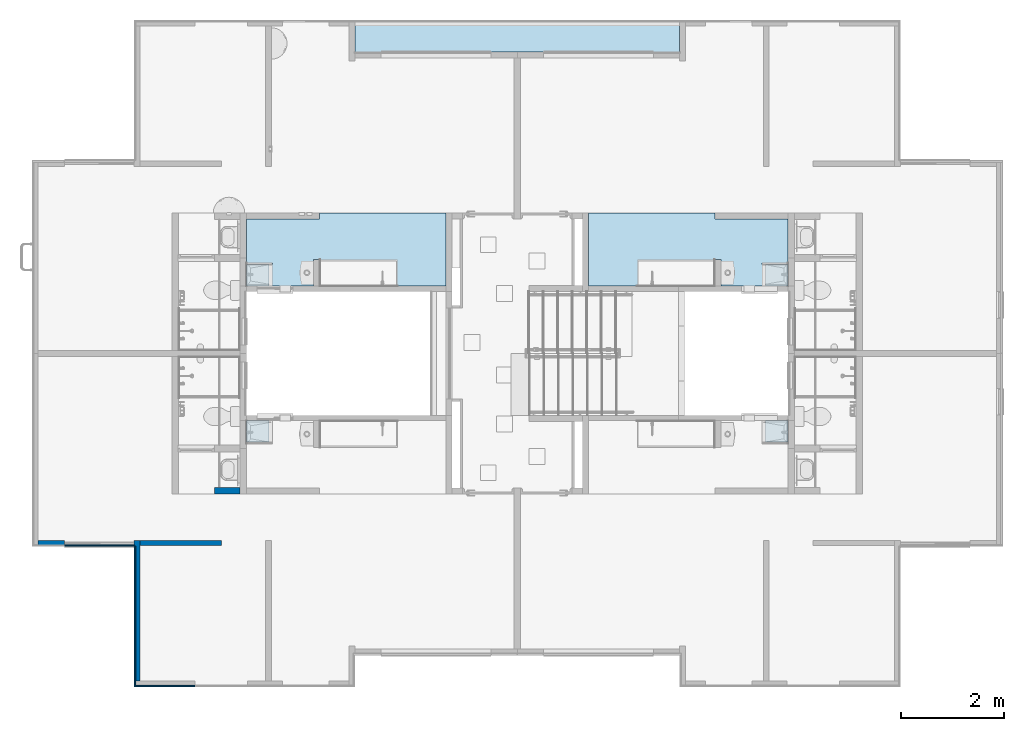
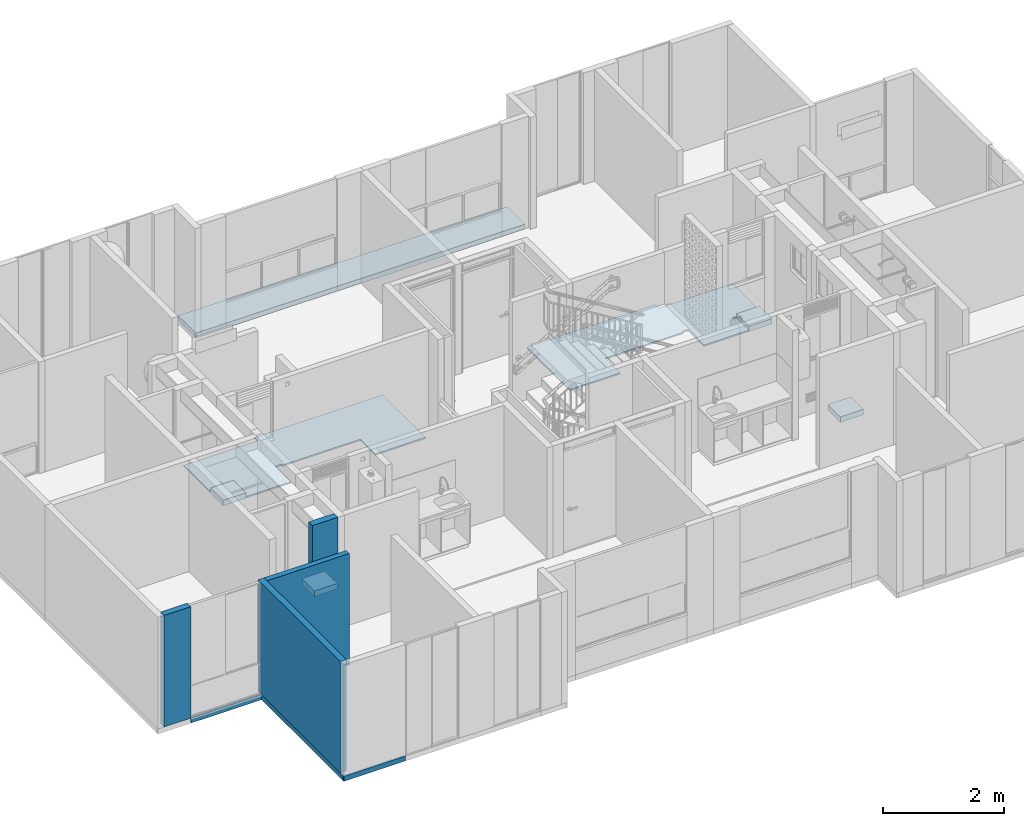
# One storey, part 3 of 51: 7 slabs, 7 walls.
"""IFC4 building model written with IfcOpenShell, lengths in metres."""

import ifcopenshell
import ifcopenshell.guid

model = None  # the IFC model being written
_history = None  # IfcOwnerHistory: only IFC2X3 demands one
_inside = {}  # id of a spatial element -> (the spatial element, [elements in it])
_under = {}  # id of a project, library or spatial element -> (it, [spatial elements below it])
_declared = {}  # id of a project -> (the project, [libraries it declares])
_typed = {}  # id of a type object -> (the type object, [elements of that type])
_made_of = {}  # id of a material, layer set ... -> (it, [elements and type objects made of it])


def new_model(schema):
    """Start an empty IFC model of exactly this schema.

    Asked for "IFC4X3", IfcOpenShell would pick the latest addendum, in which some entities
    have other attributes; the version numbers below select the first issue.
    IFC2X3 requires an IfcOwnerHistory on every rooted entity: one is made here for all.
    """
    global model, _history
    if schema == "IFC4X3":
        model = ifcopenshell.file(schema_version=(4, 3, 0, 0))
    else:
        model = ifcopenshell.file(schema=schema)
    _inside.clear()
    _under.clear()
    _declared.clear()
    _typed.clear()
    _made_of.clear()
    _history = None
    if model.schema == "IFC2X3":
        org = make("IfcOrganization", Name="unknown")
        user = make(
            "IfcPersonAndOrganization",
            ThePerson=make("IfcPerson", FamilyName="unknown"),
            TheOrganization=org,
        )
        app = make(
            "IfcApplication",
            ApplicationDeveloper=org,
            Version="unknown",
            ApplicationFullName="unknown",
            ApplicationIdentifier="unknown",
        )
        _history = make(
            "IfcOwnerHistory",
            OwningUser=user,
            OwningApplication=app,
            ChangeAction="ADDED",
            CreationDate=0,
        )
    return model


def make(cls, **values):
    """One entity of the class cls with the attributes given. An attribute that is None is left unset."""
    return model.create_entity(
        cls, **{name: value for name, value in values.items() if value is not None}
    )


def entity(cls, *values):
    """Any entity or typed value of the class cls, its attributes in the order of the schema. None: left unset."""
    e = model.create_entity(cls)
    for i, value in enumerate(values):
        if value is not None:
            e[i] = value
    return e


def rooted(cls, **values):
    """An entity with a GlobalId (a new one), such as an element, a storey or a relation."""
    return make(cls, GlobalId=ifcopenshell.guid.new(), OwnerHistory=_history, **values)


def si_unit(unit_type, name, prefix=None):
    """IfcSIUnit, for example si_unit("LENGTHUNIT", "METRE", prefix="MILLI")."""
    return make("IfcSIUnit", UnitType=unit_type, Prefix=prefix, Name=name)


def converted_unit(unit_type, name, factor, base, dimensions=None, offset=None):
    """IfcConversionBasedUnit, such as the inch: factor (a typed value) times the base unit."""
    return make(
        "IfcConversionBasedUnit"
        if offset is None
        else "IfcConversionBasedUnitWithOffset",
        ConversionOffset=offset,
        Dimensions=None
        if dimensions is None
        else entity("IfcDimensionalExponents", *dimensions),
        UnitType=unit_type,
        Name=name,
        ConversionFactor=make(
            "IfcMeasureWithUnit", ValueComponent=factor, UnitComponent=base
        ),
    )


def derived_unit(unit_type, elements):
    """IfcDerivedUnit: a product of units, each with its exponent."""
    return make(
        "IfcDerivedUnit",
        Elements=[
            make("IfcDerivedUnitElement", Unit=unit, Exponent=power)
            for unit, power in elements
        ],
        UnitType=unit_type,
    )


def assignment(units):
    """IfcUnitAssignment: the units of a project."""
    return None if units is None else make("IfcUnitAssignment", Units=units)


def point(xyz):
    """IfcCartesianPoint."""
    return None if xyz is None else make("IfcCartesianPoint", Coordinates=xyz)


def direction(xyz):
    """IfcDirection."""
    return None if xyz is None else make("IfcDirection", DirectionRatios=xyz)


def frame(location, z_axis=None, x_axis=None):
    """IfcAxis2Placement3D, a coordinate frame: its origin and axes. An axis left out is left unset."""
    return make(
        "IfcAxis2Placement3D",
        Location=point(location),
        Axis=direction(z_axis),
        RefDirection=direction(x_axis),
    )


def origin():
    """The frame at (0, 0, 0) with its axes left unset."""
    return frame((0.0, 0.0, 0.0))


def place(relative_to, where):
    """IfcLocalPlacement: puts the frame where relative to a parent placement (None: the world)."""
    return make(
        "IfcLocalPlacement", PlacementRelTo=relative_to, RelativePlacement=where
    )


def context(
    kind, dimensions, precision=None, world=None, true_north=None, identifier=None
):
    """IfcGeometricRepresentationContext, for example the 3D "Model" context."""
    return make(
        "IfcGeometricRepresentationContext",
        ContextIdentifier=identifier,
        ContextType=kind,
        CoordinateSpaceDimension=dimensions,
        Precision=precision,
        WorldCoordinateSystem=world,
        TrueNorth=true_north,
    )


def subcontext(parent, identifier, kind, view, scale=None):
    """IfcGeometricRepresentationSubContext, for example "Body" below "Model"."""
    return make(
        "IfcGeometricRepresentationSubContext",
        ContextIdentifier=identifier,
        ContextType=kind,
        ParentContext=parent,
        TargetScale=scale,
        TargetView=view,
    )


def project(units=None, contexts=None):
    """IfcProject with its units and contexts."""
    return rooted(
        "IfcProject",
        Name="project",
        RepresentationContexts=contexts,
        UnitsInContext=assignment(units),
    )


def spatial(cls, under=None, at=None, **own):
    """A site, building, storey or space (cls), placed at a placement, below another one or the project."""
    s = rooted(cls, ObjectPlacement=at, **own)
    if under is not None:
        _under.setdefault(under.id(), (under, []))[1].append(s)
    return s


def point_list(points):
    """IfcCartesianPointList2D or 3D."""
    cls = (
        "IfcCartesianPointList2D" if len(points[0]) == 2 else "IfcCartesianPointList3D"
    )
    return make(cls, CoordList=points)


def indexed_curve(points, segments=None, self_intersect=None):
    """IfcIndexedPolyCurve: lines and arcs through numbered points (the first is 1)."""
    return make(
        "IfcIndexedPolyCurve",
        Points=point_list(points),
        Segments=segments,
        SelfIntersect=self_intersect,
    )


def outline(outer, holes=None, kind="AREA"):
    """IfcArbitraryClosedProfileDef: a profile drawn as a closed curve; with holes, ...WithVoids."""
    if holes is None:
        return make("IfcArbitraryClosedProfileDef", ProfileType=kind, OuterCurve=outer)
    return make(
        "IfcArbitraryProfileDefWithVoids",
        ProfileType=kind,
        OuterCurve=outer,
        InnerCurves=holes,
    )


def extrude(swept, where, along, depth):
    """IfcExtrudedAreaSolid: the profile swept, set in the frame where, extruded along a direction by depth."""
    return make(
        "IfcExtrudedAreaSolid",
        SweptArea=swept,
        Position=where,
        ExtrudedDirection=direction(along),
        Depth=depth,
    )


def shape(context_of_items, identifier, shape_type, items):
    """IfcShapeRepresentation: the items that make up one representation, for example the "Body"."""
    return make(
        "IfcShapeRepresentation",
        ContextOfItems=context_of_items,
        RepresentationIdentifier=identifier,
        RepresentationType=shape_type,
        Items=items,
    )


def material(Name=None, Category=None):
    """IfcMaterial."""
    return make("IfcMaterial", Name=Name, Category=Category)


def constituent(of_material, Name=None, Category=None, fraction=None):
    """IfcMaterialConstituent: one of the materials an element consists of."""
    return make(
        "IfcMaterialConstituent",
        Name=Name,
        Material=of_material,
        Fraction=fraction,
        Category=Category,
    )


def constituent_set(constituents=None, Name=None):
    """IfcMaterialConstituentSet."""
    return make(
        "IfcMaterialConstituentSet", Name=Name, MaterialConstituents=constituents
    )


def made_of(thing, what):
    """Note that an element or type object is made of a material, layer set ...; save() writes the relation."""
    if what is not None:
        _made_of.setdefault(what.id(), (what, []))[1].append(thing)
    return thing


def type_object(cls, material=None, **own):
    """A type object (cls), such as IfcWallType, which elements share."""
    return made_of(rooted(cls, **own), material)


def element(
    cls,
    number,
    at=None,
    inside=None,
    cuts=None,
    type_object=None,
    material=None,
    context=None,
    identifier="Body",
    shape_type=None,
    held_by="IfcProductDefinitionShape",
    body=None,
    shapes=None,
    **own,
):
    """One element of the class cls, such as IfcWall. Its Tag is "e" and its number.

    at: its placement. inside: the storey or other place that contains it. cuts: it is an
    opening in that element (IfcRelVoidsElement). A single representation is given by context,
    identifier, shape_type and body (its items); several are given by shapes. held_by: the class
    of the entity that holds the representations. save() writes the other relations.
    """
    e = rooted(cls, Tag="e%d" % number, ObjectPlacement=at, **own)
    if body is not None:
        shapes = [shape(context, identifier, shape_type, body)]
    if shapes is not None:
        e.Representation = make(held_by, Representations=shapes)
    if inside is not None:
        _inside.setdefault(inside.id(), (inside, []))[1].append(e)
    if cuts is not None:
        rooted(
            "IfcRelVoidsElement", RelatingBuildingElement=cuts, RelatedOpeningElement=e
        )
    if type_object is not None:
        _typed.setdefault(type_object.id(), (type_object, []))[1].append(e)
    return made_of(e, material)


def aggregate(whole, parts):
    """IfcRelAggregates: a whole, such as a stair, and the parts it consists of."""
    return rooted("IfcRelAggregates", RelatingObject=whole, RelatedObjects=parts)


def save(model, path):
    """Write the relations noted so far, then the file.

    IfcRelAggregates (storeys below a building ...), IfcRelContainedInSpatialStructure (elements
    in a storey), IfcRelDefinesByType, IfcRelAssociatesMaterial and IfcRelDeclares: one each for
    every whole, place, type object, material and project.
    """
    for whole, parts in _under.values():
        aggregate(whole, parts)
    for where, things in _inside.values():
        rooted(
            "IfcRelContainedInSpatialStructure",
            RelatedElements=things,
            RelatingStructure=where,
        )
    for kind, things in _typed.values():
        rooted("IfcRelDefinesByType", RelatedObjects=things, RelatingType=kind)
    for what, things in _made_of.values():
        rooted("IfcRelAssociatesMaterial", RelatedObjects=things, RelatingMaterial=what)
    for by, libraries in _declared.values():
        rooted("IfcRelDeclares", RelatingContext=by, RelatedDefinitions=libraries)
    model.write(path)


model = new_model("IFC4")

# Units and contexts
model_context = context("Model", 3, precision=1e-05, world=origin(), true_north=direction((6.123031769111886e-17, 1.0)))
body_context = subcontext(model_context, "Body", "Model", "MODEL_VIEW")
ifc_project = project(units=[si_unit("LENGTHUNIT", "METRE"), si_unit("AREAUNIT", "SQUARE_METRE"), si_unit("VOLUMEUNIT", "CUBIC_METRE"), converted_unit("PLANEANGLEUNIT", "DEGREE", entity("IfcRatioMeasure", 0.017453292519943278), si_unit("PLANEANGLEUNIT", "RADIAN"), dimensions=[0, 0, 0, 0, 0, 0, 0]), si_unit("MASSUNIT", "GRAM", prefix="KILO"), derived_unit("MASSDENSITYUNIT", [(si_unit("MASSUNIT", "GRAM", prefix="KILO"), 1), (si_unit("LENGTHUNIT", "METRE"), -3)]), derived_unit("IONCONCENTRATIONUNIT", [(si_unit("MASSUNIT", "GRAM", prefix="KILO"), 1), (si_unit("LENGTHUNIT", "METRE"), -3)]), derived_unit("MOMENTOFINERTIAUNIT", [(si_unit("LENGTHUNIT", "METRE"), 4)]), si_unit("TIMEUNIT", "SECOND"), si_unit("FREQUENCYUNIT", "HERTZ"), si_unit("THERMODYNAMICTEMPERATUREUNIT", "DEGREE_CELSIUS"), derived_unit("THERMALTRANSMITTANCEUNIT", [(si_unit("MASSUNIT", "GRAM", prefix="KILO"), 1), (si_unit("THERMODYNAMICTEMPERATUREUNIT", "KELVIN"), -1), (si_unit("TIMEUNIT", "SECOND"), -3)]), derived_unit("THERMALCONDUCTANCEUNIT", [(si_unit("MASSUNIT", "GRAM", prefix="KILO"), 1), (si_unit("THERMODYNAMICTEMPERATUREUNIT", "KELVIN"), -1), (si_unit("TIMEUNIT", "SECOND"), -3), (si_unit("LENGTHUNIT", "METRE"), 1)]), derived_unit("VOLUMETRICFLOWRATEUNIT", [(si_unit("LENGTHUNIT", "METRE"), 3), (si_unit("TIMEUNIT", "SECOND"), -1)]), derived_unit("MASSFLOWRATEUNIT", [(si_unit("MASSUNIT", "GRAM", prefix="KILO"), 1), (si_unit("TIMEUNIT", "SECOND"), -1)]), derived_unit("ROTATIONALFREQUENCYUNIT", [(si_unit("TIMEUNIT", "SECOND"), -1)]), si_unit("ELECTRICCURRENTUNIT", "AMPERE"), si_unit("ELECTRICVOLTAGEUNIT", "VOLT"), si_unit("POWERUNIT", "WATT"), si_unit("FORCEUNIT", "NEWTON", prefix="KILO"), si_unit("ILLUMINANCEUNIT", "LUX"), si_unit("LUMINOUSFLUXUNIT", "LUMEN"), si_unit("LUMINOUSINTENSITYUNIT", "CANDELA"), derived_unit("USERDEFINED", [(si_unit("MASSUNIT", "GRAM", prefix="KILO"), -1), (si_unit("LENGTHUNIT", "METRE"), -2), (si_unit("TIMEUNIT", "SECOND"), 3), (si_unit("LUMINOUSFLUXUNIT", "LUMEN"), 1)]), derived_unit("USERDEFINED", [(si_unit("MASSUNIT", "GRAM", prefix="KILO"), 1), (si_unit("TIMEUNIT", "SECOND"), -3), (si_unit("LENGTHUNIT", "METRE"), 3), (si_unit("ELECTRICCURRENTUNIT", "AMPERE"), -2)]), derived_unit("SOUNDPOWERUNIT", [(si_unit("MASSUNIT", "GRAM", prefix="KILO"), 1), (si_unit("TIMEUNIT", "SECOND"), -3), (si_unit("LENGTHUNIT", "METRE"), 2)]), derived_unit("SOUNDPRESSUREUNIT", [(si_unit("MASSUNIT", "GRAM", prefix="KILO"), 1), (si_unit("LENGTHUNIT", "METRE"), -1), (si_unit("TIMEUNIT", "SECOND"), -2)]), derived_unit("LINEARVELOCITYUNIT", [(si_unit("LENGTHUNIT", "METRE"), 1), (si_unit("TIMEUNIT", "SECOND"), -1)]), si_unit("PRESSUREUNIT", "PASCAL"), derived_unit("USERDEFINED", [(si_unit("MASSUNIT", "GRAM", prefix="KILO"), 1), (si_unit("LENGTHUNIT", "METRE"), -2), (si_unit("TIMEUNIT", "SECOND"), -2)]), derived_unit("LINEARFORCEUNIT", [(si_unit("MASSUNIT", "GRAM", prefix="KILO"), 1), (si_unit("TIMEUNIT", "SECOND"), -2)]), derived_unit("PLANARFORCEUNIT", [(si_unit("MASSUNIT", "GRAM", prefix="KILO"), 1), (si_unit("LENGTHUNIT", "METRE"), -1), (si_unit("TIMEUNIT", "SECOND"), -2)]), derived_unit("SPECIFICHEATCAPACITYUNIT", [(si_unit("THERMODYNAMICTEMPERATUREUNIT", "KELVIN"), -1), (si_unit("LENGTHUNIT", "METRE"), 2), (si_unit("TIMEUNIT", "SECOND"), -2)]), derived_unit("HEATINGVALUEUNIT", [(si_unit("LENGTHUNIT", "METRE"), 2), (si_unit("TIMEUNIT", "SECOND"), -2)]), derived_unit("VAPORPERMEABILITYUNIT", [(si_unit("LENGTHUNIT", "METRE"), -1), (si_unit("TIMEUNIT", "SECOND"), 1)]), derived_unit("DYNAMICVISCOSITYUNIT", [(si_unit("MASSUNIT", "GRAM", prefix="KILO"), 1), (si_unit("TIMEUNIT", "SECOND"), -1), (si_unit("LENGTHUNIT", "METRE"), -1)]), derived_unit("THERMALEXPANSIONCOEFFICIENTUNIT", [(si_unit("THERMODYNAMICTEMPERATUREUNIT", "KELVIN"), -1)]), derived_unit("MODULUSOFELASTICITYUNIT", [(si_unit("MASSUNIT", "GRAM", prefix="KILO"), 1), (si_unit("LENGTHUNIT", "METRE"), -1), (si_unit("TIMEUNIT", "SECOND"), -2)]), derived_unit("ISOTHERMALMOISTURECAPACITYUNIT", [(si_unit("LENGTHUNIT", "METRE"), 3), (si_unit("MASSUNIT", "GRAM", prefix="KILO"), -1)]), derived_unit("MOISTUREDIFFUSIVITYUNIT", [(si_unit("TIMEUNIT", "SECOND"), -1), (si_unit("LENGTHUNIT", "METRE"), 2)])], contexts=[model_context])

# Site, building, storey
site_placement = place(None, origin())
site = spatial("IfcSite", under=ifc_project, at=site_placement, Name="Default", CompositionType="ELEMENT")
building_placement = place(site_placement, origin())
building = spatial("IfcBuilding", under=site, at=building_placement, CompositionType="ELEMENT")
storey_placement = place(building_placement, frame((0.0, 0.0, 2.350000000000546)))
storey = spatial("IfcBuildingStorey", under=building, at=storey_placement, Name="Nivel 2", CompositionType="ELEMENT", Elevation=2.350000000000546)

# Slabs
ifc_material_1 = material(Name="Ceramica 0.45m x 0.45m gris", Category="Materials")
ifc_constituent_1 = constituent(ifc_material_1, Name="Ceramica 0.45m x 0.45m gris", Category="Materials")
ifc_material_2 = material(Name="Mortero de pega", Category="Materials")
ifc_constituent_2 = constituent(ifc_material_2, Name="Mortero de pega", Category="Materials")
ifc_constituent_set_1 = constituent_set(constituents=[ifc_constituent_1, ifc_constituent_2], Name="Floor:C2030.20 - 0.45 x 0.45 - Enchape cerámico - Mortero de Pega + Cerámica gris")
slab_type_1 = type_object("IfcSlabType", Name="Floor:C2030.20 - 0.45 x 0.45 - Enchape cerámico - Mortero de Pega + Cerámica gris", PredefinedType="FLOOR", material=ifc_constituent_set_1)
slab_1_placement = place(storey_placement, origin())
element("IfcSlab", 1, at=slab_1_placement, inside=storey, type_object=slab_type_1, material=ifc_constituent_set_1, Name="Floor:C2030.20 - 0.45 x 0.45 - Enchape cerámico - Mortero de Pega + Cerámica gris", ObjectType="Floor:C2030.20 - 0.45 x 0.45 - Enchape cerámico - Mortero de Pega + Cerámica gris", PredefinedType="FLOOR", context=body_context, shape_type="SweptSolid", body=[
    extrude(outline(indexed_curve([(0.06375012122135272, -0.7259999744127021), (1.478750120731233, -0.7259999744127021), (1.4787501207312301, 0.1239999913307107), (0.9787496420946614, 0.12399999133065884), (0.978749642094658, 0.15799999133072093), (1.0387496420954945, 0.1579999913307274), (1.0387496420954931, 0.5734999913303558), (0.1787501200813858, 0.5734999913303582), (0.17875012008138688, 0.053999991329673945), (0.06375012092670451, 0.05399999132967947), (0.06375012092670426, 0.08399999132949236), (-1.4212498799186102, 0.0839999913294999), (-1.4212498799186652, 0.5734999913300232), (-2.381249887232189, 0.5734999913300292), (-2.381249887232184, -0.8409999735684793), (0.06375012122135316, -0.8409999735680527), (0.06375012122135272, -0.7259999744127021)], self_intersect=False)), frame((5.566250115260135, -4.551000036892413, 0.019999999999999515), z_axis=(0.0, 0.0, 1.0), x_axis=(-1.0, 0.0, 0.0)), (0.0, 0.0, 1.0), 0.009999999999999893),
    extrude(outline(indexed_curve([(-0.8409999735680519, 0.06375012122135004), (-0.84099997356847, -2.3812498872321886), (0.5734999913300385, -2.381249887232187), (0.5734999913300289, -1.421249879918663), (0.08399999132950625, -1.42124987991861), (0.08399999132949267, 0.06375012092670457), (0.053999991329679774, 0.06375012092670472), (0.05399999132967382, 0.17875012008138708), (0.5734999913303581, 0.17875012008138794), (0.5734999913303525, 1.0387496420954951), (0.15799999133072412, 1.038749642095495), (0.15799999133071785, 0.9787496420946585), (0.12399999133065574, 0.9787496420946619), (0.12399999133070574, 1.478750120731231), (-0.7259999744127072, 1.4787501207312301), (-0.7259999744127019, 0.06375012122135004), (-0.8409999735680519, 0.06375012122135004)], self_intersect=False)), frame((5.566250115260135, -4.551000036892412, 0.0), z_axis=(0.0, 0.0, -1.0), x_axis=(0.0, -1.0, 0.0)), (0.0, 0.0, -1.0), 0.020000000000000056),
])
slab_2_placement = place(storey_placement, origin())
element("IfcSlab", 2, at=slab_2_placement, inside=storey, type_object=slab_type_1, material=ifc_constituent_set_1, Name="Floor:C2030.20 - 0.45 x 0.45 - Enchape cerámico - Mortero de Pega + Cerámica gris", ObjectType="Floor:C2030.20 - 0.45 x 0.45 - Enchape cerámico - Mortero de Pega + Cerámica gris", PredefinedType="FLOOR", context=body_context, shape_type="SweptSolid", body=[
    extrude(outline(indexed_curve([(-0.06375012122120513, -0.8409999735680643), (2.381249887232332, -0.8409999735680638), (2.38124988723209, 0.5734999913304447), (1.4212498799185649, 0.573499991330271), (1.4212498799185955, 0.08399999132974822), (-0.06375012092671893, 0.08399999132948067), (-0.06375012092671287, 0.0539999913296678), (-0.17875012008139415, 0.05399999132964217), (-0.17875012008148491, 0.5734999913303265), (-1.038749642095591, 0.5734999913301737), (-1.0387496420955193, 0.15799999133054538), (-0.9787496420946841, 0.15799999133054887), (-0.978749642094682, 0.1239999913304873), (-1.478750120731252, 0.12399999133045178), (-1.478750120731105, -0.7259999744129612), (-0.0637501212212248, -0.7259999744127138), (-0.06375012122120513, -0.8409999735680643)], self_intersect=False)), frame((13.078749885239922, -4.551000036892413, 0.019999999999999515), z_axis=(0.0, 0.0, 1.0), x_axis=(-1.0, 0.0, 0.0)), (0.0, 0.0, 1.0), 0.009999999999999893),
    extrude(outline(indexed_curve([(-0.06375012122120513, -0.8409999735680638), (2.381249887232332, -0.8409999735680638), (2.38124988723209, 0.5734999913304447), (1.4212498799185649, 0.573499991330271), (1.4212498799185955, 0.08399999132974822), (-0.06375012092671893, 0.08399999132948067), (-0.06375012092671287, 0.0539999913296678), (-0.17875012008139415, 0.05399999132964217), (-0.17875012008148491, 0.5734999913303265), (-1.038749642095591, 0.5734999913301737), (-1.0387496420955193, 0.15799999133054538), (-0.9787496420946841, 0.1579999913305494), (-0.978749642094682, 0.1239999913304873), (-1.478750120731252, 0.12399999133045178), (-1.478750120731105, -0.7259999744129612), (-0.0637501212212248, -0.7259999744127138), (-0.06375012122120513, -0.8409999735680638)], self_intersect=False)), frame((13.078749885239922, -4.551000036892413, 0.0), z_axis=(0.0, 0.0, 1.0), x_axis=(-1.0, 0.0, 0.0)), (0.0, 0.0, 1.0), 0.020000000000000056),
])
ifc_material_3 = material(Name="Concreto (Aire)", Category="Materials")
slab_type_2 = type_object("IfcSlabType", Name="Floor:B1020 - 0.10m - Placa de cubierta - Concreto", PredefinedType="FLOOR", material=ifc_material_3)
slab_3_placement = place(storey_placement, origin())
element("IfcSlab", 3, at=slab_3_placement, inside=storey, type_object=slab_type_2, material=ifc_material_3, Name="Floor:B1020 - 0.10m - Placa de cubierta - Concreto", ObjectType="Floor:B1020 - 0.10m - Placa de cubierta - Concreto", PredefinedType="FLOOR", context=body_context, shape_type="SweptSolid", body=[
    extrude(outline(indexed_curve([(-0.2925000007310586, -3.1400000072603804), (0.29250000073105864, -3.1400000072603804), (0.29250000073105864, 3.1400000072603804), (-0.2925000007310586, 3.1400000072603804), (-0.2925000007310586, -3.1400000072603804)], self_intersect=False)), frame((9.322500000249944, -0.3025000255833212, 0.0), z_axis=(0.0, 0.0, -1.0), x_axis=(0.0, 1.0, 0.0)), (0.0, 0.0, 1.0), 0.1),
])
ifc_constituent_3 = constituent(ifc_material_1, Name="Ceramica 0.45m x 0.45m gris", Category="Materials")
ifc_constituent_4 = constituent(ifc_material_3, Name="Concreto (Aire)", Category="Materials")
ifc_constituent_set_2 = constituent_set(constituents=[ifc_constituent_3, ifc_constituent_4], Name="Floor:B1010 - 0.10m - Poyo - Concreto+ cerámica")
slab_type_3 = type_object("IfcSlabType", Name="Floor:B1010 - 0.10m - Poyo - Concreto+ cerámica", PredefinedType="FLOOR", material=ifc_constituent_set_2)
slab_4_placement = place(storey_placement, origin())
element("IfcSlab", 4, at=slab_4_placement, inside=storey, type_object=slab_type_3, material=ifc_constituent_set_2, Name="Floor:B1010 - 0.10m - Poyo - Concreto+ cerámica", ObjectType="Floor:B1010 - 0.10m - Poyo - Concreto+ cerámica", PredefinedType="FLOOR", context=body_context, shape_type="SweptSolid", body=[
    extrude(outline(indexed_curve([(-0.20774999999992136, -0.220000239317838), (0.20774999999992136, -0.220000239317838), (0.20774999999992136, 0.220000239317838), (-0.20774999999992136, 0.22000023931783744), (-0.20774999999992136, -0.220000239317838)], self_intersect=False)), frame((4.307500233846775, -4.916750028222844, 0.10000000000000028), z_axis=(0.0, 0.0, 1.0), x_axis=(0.0, -1.0, 0.0)), (0.0, 0.0, 1.0), 0.009999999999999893),
    extrude(outline(indexed_curve([(-0.220000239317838, -0.20774999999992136), (0.220000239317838, -0.20774999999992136), (0.220000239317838, 0.20774999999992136), (-0.220000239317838, 0.20774999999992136), (-0.220000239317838, -0.20774999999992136)], self_intersect=False)), frame((4.307500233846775, -4.916750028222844, 0.0), z_axis=(0.0, 0.0, 1.0), x_axis=(-1.0, 0.0, 0.0)), (0.0, 0.0, 1.0), 0.1),
])
slab_5_placement = place(storey_placement, origin())
element("IfcSlab", 5, at=slab_5_placement, inside=storey, type_object=slab_type_3, material=ifc_constituent_set_2, Name="Floor:B1010 - 0.10m - Poyo - Concreto+ cerámica", ObjectType="Floor:B1010 - 0.10m - Poyo - Concreto+ cerámica", PredefinedType="FLOOR", context=body_context, shape_type="SweptSolid", body=[
    extrude(outline(indexed_curve([(-0.2077499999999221, -0.22000023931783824), (0.20774999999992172, -0.22000023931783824), (0.2077499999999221, 0.22000023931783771), (-0.20774999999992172, 0.22000023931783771), (-0.2077499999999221, -0.22000023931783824)], self_intersect=False)), frame((4.307500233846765, -7.933250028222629, 0.10000000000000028), z_axis=(0.0, 0.0, 1.0), x_axis=(0.0, 1.0, 0.0)), (0.0, 0.0, 1.0), 0.009999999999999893),
    extrude(outline(indexed_curve([(-0.2077499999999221, -0.22000023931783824), (0.20774999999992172, -0.22000023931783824), (0.2077499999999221, 0.22000023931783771), (-0.20774999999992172, 0.22000023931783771), (-0.2077499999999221, -0.22000023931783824)], self_intersect=False)), frame((4.307500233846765, -7.933250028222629, 0.0), z_axis=(0.0, 0.0, 1.0), x_axis=(0.0, 1.0, 0.0)), (0.0, 0.0, 1.0), 0.1),
])
slab_6_placement = place(storey_placement, origin())
element("IfcSlab", 6, at=slab_6_placement, inside=storey, type_object=slab_type_3, material=ifc_constituent_set_2, Name="Floor:B1010 - 0.10m - Poyo - Concreto+ cerámica", ObjectType="Floor:B1010 - 0.10m - Poyo - Concreto+ cerámica", PredefinedType="FLOOR", context=body_context, shape_type="SweptSolid", body=[
    extrude(outline(indexed_curve([(-0.20774999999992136, -0.22000023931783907), (0.20774999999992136, -0.22000023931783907), (0.20774999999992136, 0.2200002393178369), (-0.20774999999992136, 0.2200002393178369), (-0.20774999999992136, -0.22000023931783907)], self_intersect=False)), frame((14.337499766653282, -4.916750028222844, 0.10000000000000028), z_axis=(0.0, 0.0, 1.0), x_axis=(0.0, -1.0, 0.0)), (0.0, 0.0, 1.0), 0.009999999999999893),
    extrude(outline(indexed_curve([(-0.20774999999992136, -0.22000023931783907), (0.20774999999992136, -0.22000023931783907), (0.20774999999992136, 0.2200002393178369), (-0.20774999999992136, 0.2200002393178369), (-0.20774999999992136, -0.22000023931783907)], self_intersect=False)), frame((14.337499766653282, -4.916750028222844, 0.0), z_axis=(0.0, 0.0, 1.0), x_axis=(0.0, -1.0, 0.0)), (0.0, 0.0, 1.0), 0.1),
])
slab_7_placement = place(storey_placement, origin())
element("IfcSlab", 7, at=slab_7_placement, inside=storey, type_object=slab_type_3, material=ifc_constituent_set_2, Name="Floor:B1010 - 0.10m - Poyo - Concreto+ cerámica", ObjectType="Floor:B1010 - 0.10m - Poyo - Concreto+ cerámica", PredefinedType="FLOOR", context=body_context, shape_type="SweptSolid", body=[
    extrude(outline(indexed_curve([(-0.2077499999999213, -0.22000023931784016), (0.20774999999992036, -0.22000023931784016), (0.2077499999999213, 0.22000023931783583), (-0.20774999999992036, 0.22000023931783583), (-0.2077499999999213, -0.22000023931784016)], self_intersect=False)), frame((14.337499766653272, -7.933250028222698, 0.10000000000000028), z_axis=(0.0, 0.0, 1.0), x_axis=(0.0, 1.0, 0.0)), (0.0, 0.0, 1.0), 0.009999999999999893),
    extrude(outline(indexed_curve([(-0.22000023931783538, -0.20774999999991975), (0.2200002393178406, -0.20774999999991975), (0.2200002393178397, 0.2077499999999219), (-0.22000023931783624, 0.2077499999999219), (-0.22000023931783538, -0.20774999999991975)], self_intersect=False)), frame((14.337499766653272, -7.9332500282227, 0.0)), (0.0, 0.0, 1.0), 0.1),
])

# Walls
ifc_material_4 = material(Name="Ladrillo claro (Aire)", Category="Materials")
wall_type_1 = type_object("IfcWallType", Name="Basic Wall:B2010 - 0.115m - Muro exterior en mampostería - Ladrillo", PredefinedType="STANDARD")
wall_1_placement = place(storey_placement, frame((1.9749999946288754, -10.04000002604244, 0.0), z_axis=(0.0, 0.0, 1.0), x_axis=(0.0, -1.0, 0.0)))
element("IfcWall", 8, at=wall_1_placement, inside=storey, type_object=wall_type_1, material=ifc_material_4, Name="Basic Wall:B2010 - 0.115m - Muro exterior en mampostería - Ladrillo", ObjectType="Basic Wall:B2010 - 0.115m - Muro exterior en mampostería - Ladrillo", PredefinedType="NOTDEFINED", context=body_context, shape_type="SweptSolid", body=[
    extrude(outline(indexed_curve([(2.7150000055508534, 0.057499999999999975), (2.799198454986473e-16, 0.057499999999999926), (-2.799198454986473e-16, -0.057499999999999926), (2.715000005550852, -0.05749999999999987), (2.7150000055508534, 0.057499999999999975)], self_intersect=False)), origin(), (0.0, 0.0, 1.0), 2.2500000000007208),
])
ifc_material_5 = material(Name="LADRILLO CLARO", Category="Materials")
wall_type_2 = type_object("IfcWallType", Name="Basic Wall:B2010 - 0.115m - ME mampostería no estructural - Ladrillo", PredefinedType="STANDARD")
wall_2_placement = place(storey_placement, frame((0.057499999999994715, -10.097500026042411, 0.0)))
element("IfcWall", 9, at=wall_2_placement, inside=storey, type_object=wall_type_2, material=ifc_material_5, Name="Basic Wall:B2010 - 0.115m - ME mampostería no estructural - Ladrillo", ObjectType="Basic Wall:B2010 - 0.115m - ME mampostería no estructural - Ladrillo", PredefinedType="NOTDEFINED", context=body_context, shape_type="SweptSolid", body=[
    extrude(outline(indexed_curve([(0.5099999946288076, 0.057499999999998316), (-1.1590771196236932e-18, 0.057499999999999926), (1.1590771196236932e-18, -0.057499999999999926), (0.5099999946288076, -0.05750000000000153), (0.5099999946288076, 0.057499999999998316)], self_intersect=False)), origin(), (0.0, 0.0, 1.0), 2.2500000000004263),
])
wall_type_3 = type_object("IfcWallType", Name="Basic Wall:B2010 - 0.10m - Muro interior en concreto", PredefinedType="STANDARD")
wall_3_placement = place(storey_placement, frame((2.032499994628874, -10.090000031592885, 0.0)))
element("IfcWall", 10, at=wall_3_placement, inside=storey, type_object=wall_type_3, material=ifc_material_3, Name="Basic Wall:B2010 - 0.10m - Muro interior en concreto", ObjectType="Basic Wall:B2010 - 0.10m - Muro interior en concreto", PredefinedType="NOTDEFINED", context=body_context, shape_type="SweptSolid", body=[
    extrude(outline(indexed_curve([(1.5699999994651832, 0.050000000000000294), (-5.230813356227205e-17, 0.04999999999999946), (5.230813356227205e-17, -0.04999999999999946), (1.5699999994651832, -0.049999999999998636), (1.5699999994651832, 0.050000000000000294)], self_intersect=False)), origin(), (0.0, 0.0, 1.0), 2.2499999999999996),
])
ifc_material_6 = material(Name="Pañete", Category="Materials")
ifc_constituent_5 = constituent(ifc_material_6, Name="Pañete", Category="Materials")
ifc_constituent_6 = constituent(ifc_material_4, Name="Ladrillo claro (Aire)", Category="Materials")
ifc_constituent_set_3 = constituent_set(constituents=[ifc_constituent_5, ifc_constituent_6], Name="Basic Wall:B2010 - 0.115m - Muro interior en mampostería - Ladrillo + Pañete")
wall_type_4 = type_object("IfcWallType", Name="Basic Wall:B2010 - 0.115m - Muro interior en mampostería - Ladrillo + Pañete", PredefinedType="STANDARD", material=ifc_constituent_set_3)
wall_4_placement = place(storey_placement, frame((3.4724999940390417, -9.077499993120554, 0.0)))
element("IfcWall", 11, at=wall_4_placement, inside=storey, type_object=wall_type_4, material=ifc_constituent_set_3, Name="Basic Wall:B2010 - 0.115m - Muro interior en mampostería - Ladrillo + Pañete", ObjectType="Basic Wall:B2010 - 0.115m - Muro interior en mampostería - Ladrillo + Pañete", PredefinedType="NOTDEFINED", context=body_context, shape_type="SweptSolid", body=[
    extrude(outline(indexed_curve([(-0.004999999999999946, -0.24500000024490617), (0.004999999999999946, -0.24500000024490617), (0.005000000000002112, 0.24500000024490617), (-0.004999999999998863, 0.24500000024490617), (-0.004999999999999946, -0.24500000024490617)], self_intersect=False)), frame((0.24500000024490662, 0.057499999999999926, 0.0), z_axis=(0.0, 0.0, 1.0), x_axis=(0.0, -1.0, 0.0)), (0.0, 0.0, 1.0), 2.250000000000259),
    extrude(outline(indexed_curve([(-0.057499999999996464, -0.2450000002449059), (0.0575000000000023, -0.2450000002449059), (0.057499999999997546, 0.24500000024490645), (-0.0575000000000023, 0.24500000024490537), (-0.057499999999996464, -0.2450000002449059)], self_intersect=False)), frame((0.24500000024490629, -0.005000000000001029, 0.0), z_axis=(0.0, 0.0, 1.0), x_axis=(0.0, 1.0, 0.0)), (0.0, 0.0, 1.0), 2.250000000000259),
])
wall_type_5 = type_object("IfcWallType", Name="Basic Wall:B2010 - 0.03m - ME enchape  no estructural - Ladrillo", PredefinedType="STANDARD")
wall_5_placement = place(storey_placement, frame((1.9324999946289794, -12.84000003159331, -0.10000000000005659), z_axis=(0.0, 0.0, 1.0), x_axis=(0.0, 1.0, 0.0)))
element("IfcWall", 12, at=wall_5_placement, inside=storey, type_object=wall_type_5, material=ifc_material_5, Name="Basic Wall:B2010 - 0.03m - ME enchape  no estructural - Ladrillo", ObjectType="Basic Wall:B2010 - 0.03m - ME enchape  no estructural - Ladrillo", PredefinedType="NOTDEFINED", context=body_context, shape_type="SweptSolid", body=[
    extrude(outline(indexed_curve([(2.6836602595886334, 0.015000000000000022), (2.4689444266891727e-17, 0.015000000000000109), (-2.4689444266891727e-17, -0.015000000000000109), (2.6836602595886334, -0.015000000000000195), (2.6836602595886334, 0.015000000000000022)], self_intersect=False)), origin(), (0.0, 0.0, 1.0), 0.1),
])
wall_6_placement = place(storey_placement, frame((3.0924999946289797, -12.855000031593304, -0.10000000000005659), z_axis=(0.0, 0.0, 1.0), x_axis=(-1.0, 0.0, 0.0)))
element("IfcWall", 13, at=wall_6_placement, inside=storey, type_object=wall_type_5, material=ifc_material_5, Name="Basic Wall:B2010 - 0.03m - ME enchape  no estructural - Ladrillo", ObjectType="Basic Wall:B2010 - 0.03m - ME enchape  no estructural - Ladrillo", PredefinedType="NOTDEFINED", context=body_context, shape_type="SweptSolid", body=[
    extrude(outline(indexed_curve([(1.1750000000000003, 0.015000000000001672), (4.570130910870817e-17, 0.015000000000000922), (-4.570130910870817e-17, -0.015000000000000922), (1.1750000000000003, -0.015000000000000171), (1.1750000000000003, 0.015000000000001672)], self_intersect=False)), origin(), (0.0, 0.0, 1.0), 0.1),
])
wall_7_placement = place(storey_placement, frame((0.5674999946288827, -10.140000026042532, -0.10000000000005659)))
element("IfcWall", 14, at=wall_7_placement, inside=storey, type_object=wall_type_5, material=ifc_material_5, Name="Basic Wall:B2010 - 0.03m - ME enchape  no estructural - Ladrillo", ObjectType="Basic Wall:B2010 - 0.03m - ME enchape  no estructural - Ladrillo", PredefinedType="NOTDEFINED", context=body_context, shape_type="SweptSolid", body=[
    extrude(outline(indexed_curve([(1.3500000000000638, 0.015000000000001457), (-3.150138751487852e-17, 0.015000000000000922), (3.150138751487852e-17, -0.015000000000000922), (1.3500000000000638, -0.015000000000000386), (1.3500000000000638, 0.015000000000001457)], self_intersect=False)), origin(), (0.0, 0.0, 1.0), 0.1),
])

save(model, "model.ifc")
